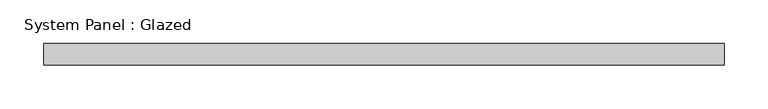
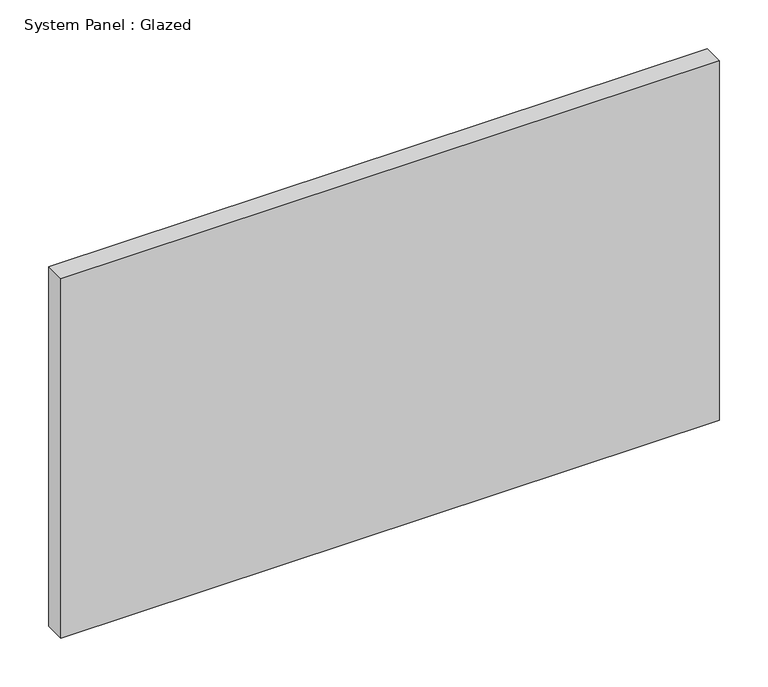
"""IFC4 building model written with IfcOpenShell, lengths in millimetres: plate geometry, System Panel : Glazed."""

from ifc_helpers import new_model, si_unit, origin, origin_with_axes, place, context, project, spatial, polyline, outline, extrude, source, transform, mapped, element, save


def system_panel_glazed_01add136(model_context):
    return source(origin(), model_context, "Body", "SweptSolid", [
        extrude(outline(polyline([(390.0, -12.5), (-390.0, -12.5), (-390.0, 12.5), (390.0, 12.5), (390.0, -12.5)])), origin_with_axes(), (0.0, 0.0, 1.0), 450.0),
    ])


if __name__ == "__main__":
    model = new_model("IFC4")
    model_context = context("Model", 3, world=origin())
    ifc_project = project(units=[si_unit("LENGTHUNIT", "METRE", prefix="MILLI")], contexts=[model_context])
    site = spatial("IfcSite", under=ifc_project)
    building = spatial("IfcBuilding", under=site)
    placement = place(None, origin())
    system_panel_glazed_shape = system_panel_glazed_01add136(model_context)
    element("IfcPlate", 1, ObjectType="System Panel : Glazed", at=placement, inside=building, context=model_context, shape_type="MappedRepresentation", body=[
        mapped(system_panel_glazed_shape, transform((0.0, 0.0, 0.0), x_axis=(1.0, 0.0, 0.0), y_axis=(0.0, 1.0, 0.0), z_axis=(0.0, 0.0, 1.0))),
    ])
    save(model, "model.ifc")
